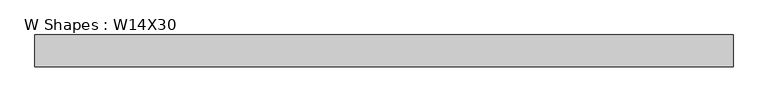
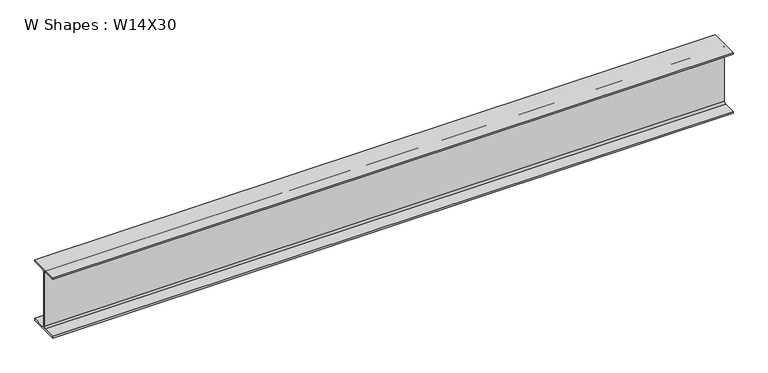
"""IFC4 building model written with IfcOpenShell, lengths in millimetres: beam geometry, W Shapes : W14X30."""

from ifc_helpers import new_model, si_unit, point, frame, frame_2d, origin, place, context, project, spatial, polyline, circle_curve, trimmed, segment, composite_curve, outline, extrude, source, transform, mapped, element, save


def w_shapes_w14x30_47131812(model_context):
    return source(origin(), model_context, "Body", "SweptSolid", [
        extrude(outline(composite_curve([segment(polyline([(85.471, -165.481), (85.471, -175.26), (-85.471, -175.26), (-85.471, -165.481), (-13.589, -165.481)]), True, "CONTINUOUS"), segment(trimmed(circle_curve(frame_2d((-13.589, -155.321)), 10.16), [point((-13.589, -165.481))], [point((-3.429, -155.321))], True, "CARTESIAN"), True, "CONTINUOUS"), segment(polyline([(-3.429, -155.321), (-3.429, 155.321)]), True, "CONTINUOUS"), segment(trimmed(circle_curve(frame_2d((-13.589, 155.321)), 10.16), [point((-3.429, 155.321))], [point((-13.589, 165.481))], True, "CARTESIAN"), True, "CONTINUOUS"), segment(polyline([(-13.589, 165.481), (-85.471, 165.481), (-85.471, 175.26), (85.471, 175.26), (85.471, 165.481), (13.589, 165.481)]), True, "CONTINUOUS"), segment(trimmed(circle_curve(frame_2d((13.589, 155.321)), 10.16), [point((13.589, 165.481))], [point((3.429, 155.321))], True, "CARTESIAN"), True, "CONTINUOUS"), segment(polyline([(3.429, 155.321), (3.429, -155.321)]), True, "CONTINUOUS"), segment(trimmed(circle_curve(frame_2d((13.589, -155.321)), 10.16), [point((3.429, -155.321))], [point((13.589, -165.481))], True, "CARTESIAN"), True, "CONTINUOUS"), segment(polyline([(13.589, -165.481), (85.471, -165.481)]), True, "CONTINUOUS")], self_intersect=False)), frame((-1863.3023799, 0.0, 0.0), z_axis=(1.0, 0.0, 0.0), x_axis=(0.0, 1.0, 0.0)), (0.0, 0.0, 1.0), 3726.6047599),
    ])


if __name__ == "__main__":
    model = new_model("IFC4")
    model_context = context("Model", 3, world=origin())
    ifc_project = project(units=[si_unit("LENGTHUNIT", "METRE", prefix="MILLI")], contexts=[model_context])
    site = spatial("IfcSite", under=ifc_project)
    building = spatial("IfcBuilding", under=site)
    placement = place(None, origin())
    w_shapes_w14x30_shape = w_shapes_w14x30_47131812(model_context)
    element("IfcBeam", 1, ObjectType="W Shapes : W14X30", at=placement, inside=building, context=model_context, shape_type="MappedRepresentation", body=[
        mapped(w_shapes_w14x30_shape, transform((0.0, 0.0, 0.0), x_axis=(1.0, 0.0, 0.0), y_axis=(0.0, 1.0, 0.0), z_axis=(0.0, 0.0, 1.0))),
    ])
    save(model, "model.ifc")
